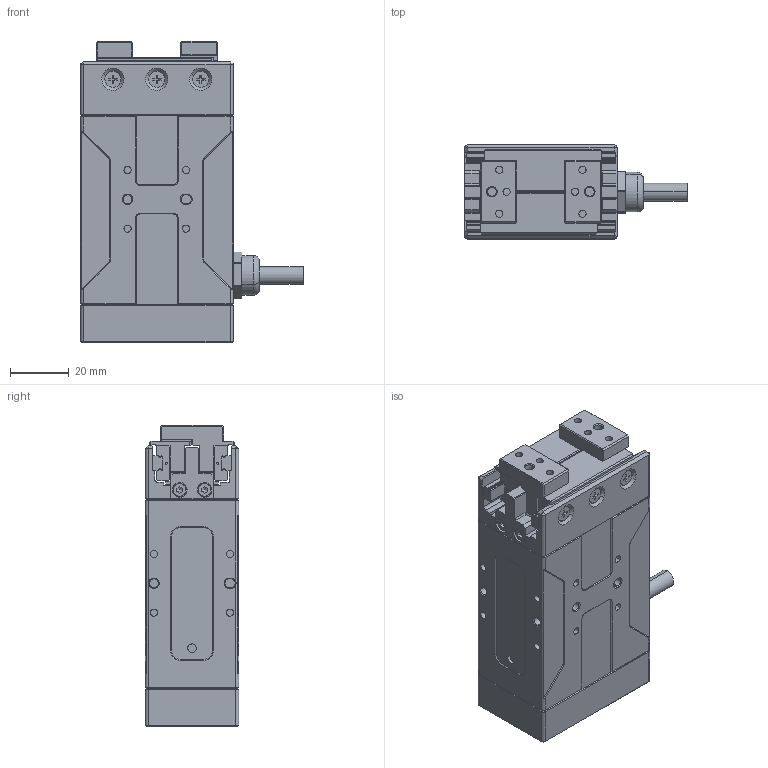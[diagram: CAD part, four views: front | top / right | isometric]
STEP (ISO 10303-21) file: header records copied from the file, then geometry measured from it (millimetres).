
FILE_DESCRIPTION(('CATIA V5 STEP Exchange'),'2;1');
FILE_NAME('E:\工作文件\EFG-20F\A1.5（正式版修改id）\模型\EFG-20F-20220715.stp','2022-07-15T07:44:17+00:00',('none'),('none'),'CATIA Version 5 Release 20 GA (IN-10)','CATIA V5 STEP AP203','none');
FILE_SCHEMA(('CONFIG_CONTROL_DESIGN'));
Length unit declared in the file: millimetre
Products named in the file (1): EFG-30 V1.0
Assembly tree (3 placements, depth 2):
  EFG-30 V1.0
    #58
    #26700  x2
Bounding box: 76 x 32 x 103 mm (x, y, z)
Volume: 156058 mm3; surface area: 35239 mm2
Topology: 3 solids, 31 shells, 1421 faces, 3465 edges, 2206 vertices
Faces by surface type: plane 720, cylinder 463, cone 190, torus 38, bspline 10
Entity records: 33923 total; most frequent: CARTESIAN_POINT 8126, ORIENTED_EDGE 5718, DIRECTION 4301, EDGE_CURVE 2859, VERTEX_POINT 1820, AXIS2_PLACEMENT_3D 1758, VECTOR 1646, LINE 1646
